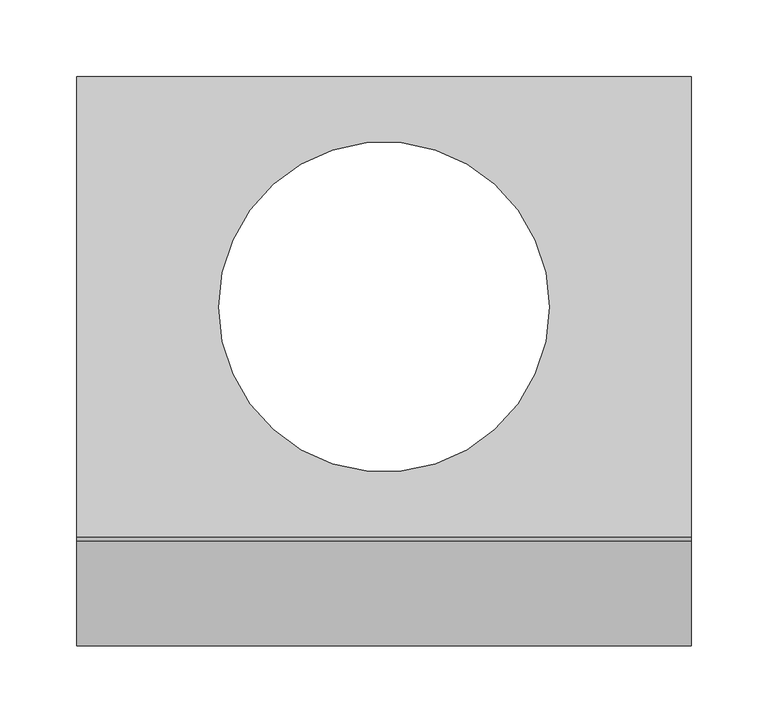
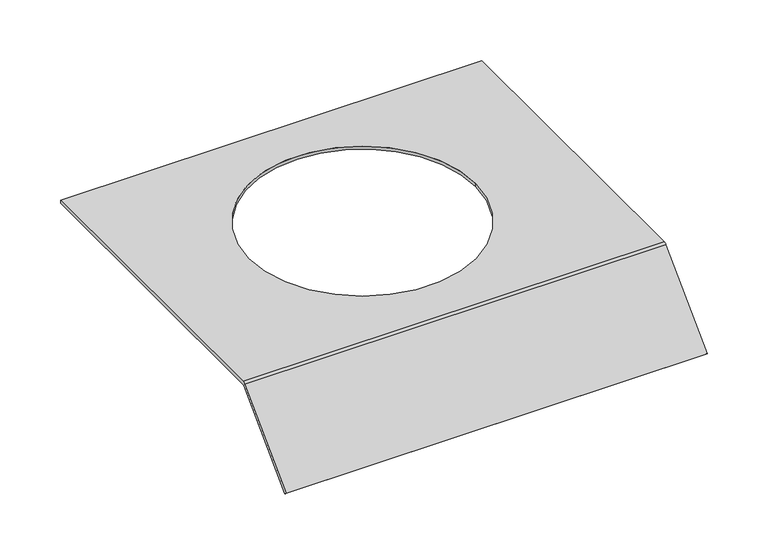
"""IFC4 building model written with IfcOpenShell, lengths in millimetres: proxy geometry, Electrical_Installation_Hager_Covers-With-Installation-Opening-R06 : Electrical_Installation_Hager_Covers-With-Installation-Opening-R06."""

from ifc_helpers import new_model, si_unit, frame, origin, place, context, project, spatial, polyline, circle_curve, source, transform, mapped, element, save
from ifc_brep_helpers import plane_surface, cylinder_surface, revolved_surface, advanced_brep


def electrical_fixtures_030f25a6(model_context):
    return source(origin(), model_context, "Body", "AdvancedBrep", [
        advanced_brep(
        [(0.0, 150.0, 40.5), (0.0, 150.0, 37.5), (0.0, -149.8229541, 37.5), (0.0, -150.8322972, 37.0819164), (0.0, -218.712807, -30.7985934), (0.0, -220.8341273, -28.6772731), (0.0, -152.8206472, 39.336207), (0.0, -150.0110025, 40.5), (400.0, 150.0, 40.5), (400.0, -150.0110025, 40.5), (400.0, -152.8206472, 39.336207), (400.0, -220.8341273, -28.6772731), (400.0, -218.712807, -30.7985934), (400.0, -150.8322972, 37.0819164), (400.0, -149.8229541, 37.5), (400.0, 150.0, 37.5), (92.5, 0.0, 37.5), (307.5, 0.0, 37.5), (307.5, 0.0, 40.5), (92.5, 0.0, 40.5)],
        [
            (0, 1),
            (1, 2),
            (2, 3, circle_curve(frame((0.0, -149.8229541, 36.0725733), z_axis=(1.0, 0.0, 0.0), x_axis=(0.0, 1.0, 0.0)), 1.4274267)),
            (3, 4),
            (4, 5),
            (5, 6),
            (6, 7, circle_curve(frame((0.0, -150.0110025, 36.5265623), z_axis=(-1.0, 0.0, 0.0), x_axis=(0.0, 1.0, 0.0)), 3.9734377)),
            (7, 0),
            (8, 9),
            (9, 10, circle_curve(frame((400.0, -150.0110025, 36.5265623), z_axis=(1.0, 0.0, 0.0), x_axis=(0.0, 1.0, 0.0)), 3.9734377)),
            (10, 11),
            (11, 12),
            (12, 13),
            (13, 14, circle_curve(frame((400.0, -149.8229541, 36.0725733), z_axis=(-1.0, 0.0, 0.0), x_axis=(0.0, 1.0, 0.0)), 1.4274267)),
            (14, 15),
            (15, 8),
            (0, 8),
            (15, 1),
            (14, 2),
            (16, 17, circle_curve(frame((200.0, 0.0, 37.5), z_axis=(0.0, 0.0, 1.0), x_axis=(1.0, 0.0, 0.0)), 107.5)),
            (17, 16, circle_curve(frame((200.0, 0.0, 37.5), z_axis=(0.0, 0.0, 1.0), x_axis=(1.0, 0.0, 0.0)), 107.5)),
            (13, 3),
            (12, 4),
            (11, 5),
            (10, 6),
            (9, 7),
            (18, 19, circle_curve(frame((200.0, 0.0, 40.5), z_axis=(0.0, 0.0, -1.0), x_axis=(1.0, 0.0, 0.0)), 107.5)),
            (19, 18, circle_curve(frame((200.0, 0.0, 40.5), z_axis=(0.0, 0.0, -1.0), x_axis=(1.0, 0.0, 0.0)), 107.5)),
            (16, 19),
            (18, 17),
        ],
        [
            plane_surface(frame((0.0, 0.3269864, 15.0), z_axis=(-1.0, 0.0, 0.0), x_axis=(0.0, 0.0, 1.0))),
            plane_surface(frame((400.0, 0.3269864, 15.0), z_axis=(1.0, 0.0, 0.0), x_axis=(0.0, 0.0, 1.0))),
            plane_surface(frame((0.0, 150.0, 40.5), z_axis=(0.0, 1.0, 0.0), x_axis=(1.0, 0.0, 0.0))),
            plane_surface(frame((0.0, 150.0, 37.5), z_axis=(0.0, 0.0, -1.0), x_axis=(1.0, 0.0, 0.0))),
            revolved_surface(polyline([(400.0, -148.3955274, 36.0725733), (0.0, -148.3955274, 36.0725733)]), (0.0, -149.8229541, 36.0725733), (1.0, 0.0, 0.0)),
            plane_surface(frame((0.0, -150.8322972, 37.0819164), z_axis=(0.0, 0.7071067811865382, -0.7071067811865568), x_axis=(1.0, 0.0, 0.0))),
            plane_surface(frame((0.0, -218.712807, -30.7985934), z_axis=(0.0, -0.7071067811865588, -0.7071067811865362), x_axis=(1.0, 0.0, 0.0))),
            plane_surface(frame((0.0, -220.8341273, -28.6772731), z_axis=(0.0, -0.7071067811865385, 0.7071067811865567), x_axis=(1.0, 0.0, 0.0))),
            cylinder_surface(frame((0.0, -150.0110025, 36.5265623), z_axis=(-1.0, 0.0, 0.0), x_axis=(0.0, 1.0, 0.0)), 3.9734377),
            plane_surface(frame((0.0, -150.0110025, 40.5), z_axis=(0.0, 0.0, 1.0), x_axis=(1.0, 0.0, 0.0))),
            revolved_surface(polyline([(307.5, 0.0, 40.5), (307.5, 0.0, 37.5)]), (200.0, 0.0, 0.0), (0.0, 0.0, 1.0)),
        ],
        [
            (0, [[1, 2, 3, 4, 5, 6, 7, 8]]),
            (1, [[9, 10, 11, 12, 13, 14, 15, 16]]),
            (2, [[-1, 17, -16, 18]]),
            (3, [[-2, -18, -15, 19], [20, 21]]),
            (4, [[-3, -19, -14, 22]]),
            (5, [[-4, -22, -13, 23]]),
            (6, [[-5, -23, -12, 24]]),
            (7, [[-6, -24, -11, 25]]),
            (8, [[-7, -25, -10, 26]]),
            (9, [[-8, -26, -9, -17], [27, 28]]),
            (10, [[29, -27, 30, -20]]),
            (10, [[-29, -21, -30, -28]]),
        ],
    ),
    ])


if __name__ == "__main__":
    model = new_model("IFC4")
    model_context = context("Model", 3, world=origin())
    ifc_project = project(units=[si_unit("LENGTHUNIT", "METRE", prefix="MILLI")], contexts=[model_context])
    site = spatial("IfcSite", under=ifc_project)
    building = spatial("IfcBuilding", under=site)
    placement = place(None, origin())
    electrical_fixtures_shape = electrical_fixtures_030f25a6(model_context)
    element("IfcBuildingElementProxy", 1, Name="Electrical_Installation_Hager_Covers-With-Installation-Opening-R06 : Electrical_Installation_Hager_Covers-With-Installation-Opening-R06", ObjectType="Electrical_Installation_Hager_Covers-With-Installation-Opening-R06 : Electrical_Installation_Hager_Covers-With-Installation-Opening-R06", at=placement, inside=building, context=model_context, shape_type="MappedRepresentation", body=[
        mapped(electrical_fixtures_shape, transform((0.0, 0.0, 0.0), x_axis=(1.0, 0.0, 0.0), y_axis=(0.0, 1.0, 0.0), z_axis=(0.0, 0.0, 1.0))),
    ])
    save(model, "model.ifc")
